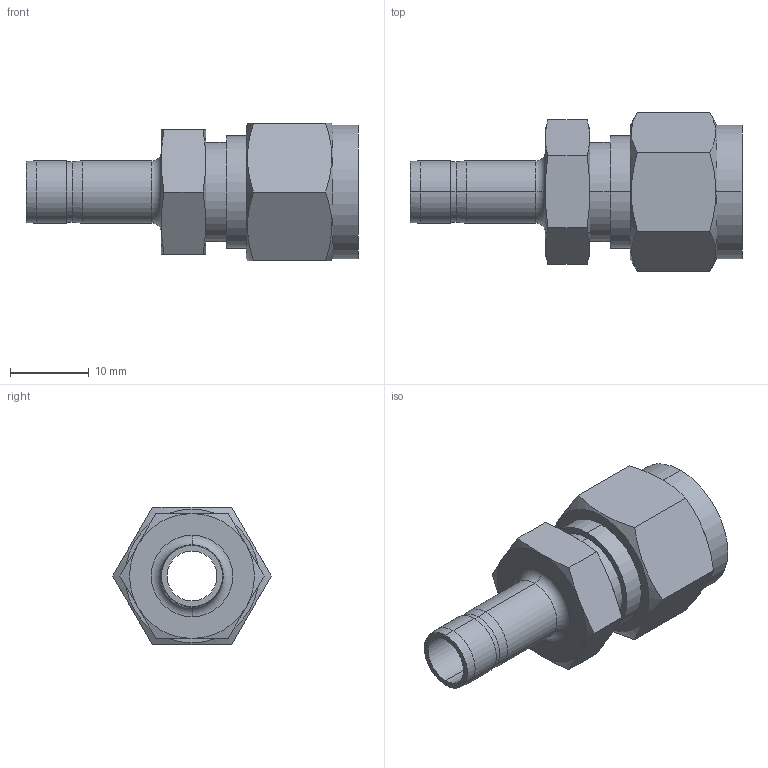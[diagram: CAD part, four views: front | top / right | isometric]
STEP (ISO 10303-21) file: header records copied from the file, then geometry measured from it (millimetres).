
FILE_DESCRIPTION (( 'STEP AP203' ), '1' );
FILE_NAME ('DRE06-05 SS.STEP', '2009-09-08T08:37:55', ( ' ' ), ( '' ), 'SwSTEP 2.0', 'SolidWorks 2008', '' );
FILE_SCHEMA (( 'CONFIG_CONTROL_DESIGN' ));
Length unit declared in the file: millimetre
Products named in the file (1): DRE06-05 SS
Bounding box: 42.2 x 20.16 x 17.46 mm (x, y, z)
Volume: 4378.8 mm3; surface area: 3404.4 mm2
Topology: 1 solids, 1 shells, 63 faces, 138 edges, 82 vertices
Faces by surface type: cone 24, plane 19, cylinder 18, torus 2
Entity records: 1925 total; most frequent: CARTESIAN_POINT 500, DIRECTION 282, ORIENTED_EDGE 276, EDGE_CURVE 138, AXIS2_PLACEMENT_3D 120, VERTEX_POINT 82, EDGE_LOOP 70, FACE_OUTER_BOUND 63
